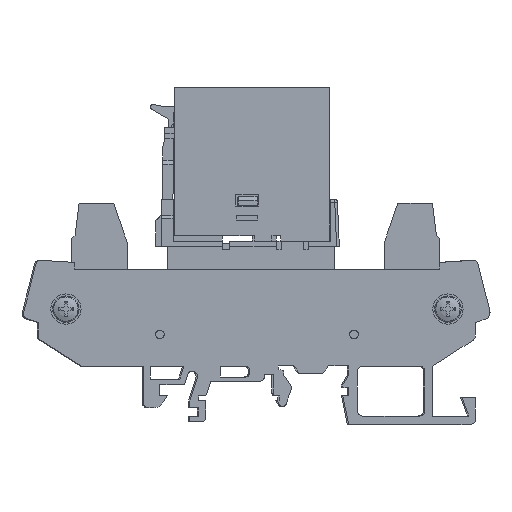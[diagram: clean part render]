
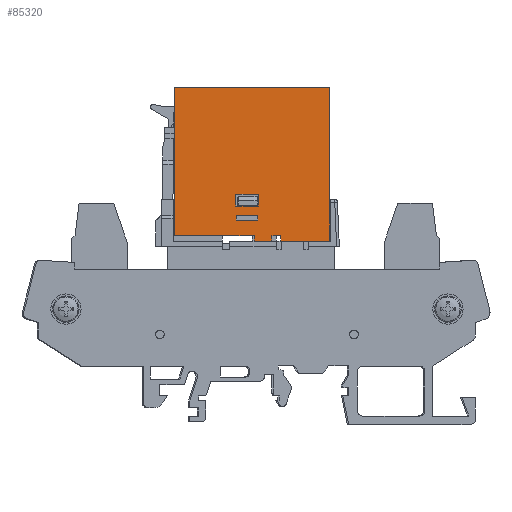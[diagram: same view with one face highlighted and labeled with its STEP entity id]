
A CAD part, left-side view. The second image highlights one B-rep face of the part: STEP entity #85320.
In plain terms, the highlighted planar face has unit normal (-1, 0, 0) as drawn and (0, 0, -1) by its records, which use the part's own axes.
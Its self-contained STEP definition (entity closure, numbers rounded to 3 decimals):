
#2577 = CARTESIAN_POINT ( 'NONE',  ( 14.4, 27.5, -6.3 ) ) ;
#3682 = FACE_BOUND ( 'NONE', #171167, .T. ) ;
#11203 = EDGE_CURVE ( 'NONE', #137652, #25320, #62909, .T. ) ;
#11980 = CARTESIAN_POINT ( 'NONE',  ( -0.4, -1., -6.3 ) ) ;
#14437 = VECTOR ( 'NONE', #90387, 1000. ) ;
#17898 = EDGE_CURVE ( 'NONE', #109890, #97773, #126670, .T. ) ;
#19173 = CARTESIAN_POINT ( 'NONE',  ( 2.9, 2.9, -6.3 ) ) ;
#20296 = CARTESIAN_POINT ( 'NONE',  ( -3.7, -1., -6.3 ) ) ;
#20702 = DIRECTION ( 'NONE',  ( -1., 0., 0. ) ) ;
#22839 = EDGE_CURVE ( 'NONE', #142116, #137652, #140117, .T. ) ;
#22969 = EDGE_CURVE ( 'NONE', #54823, #123301, #27725, .T. ) ;
#23632 = ORIENTED_EDGE ( 'NONE', *, *, #95710, .T. ) ;
#25320 = VERTEX_POINT ( 'NONE', #44252 ) ;
#26158 = VECTOR ( 'NONE', #149673, 1000. ) ;
#26996 = VERTEX_POINT ( 'NONE', #101079 ) ;
#27407 = VECTOR ( 'NONE', #95166, 1000. ) ;
#27725 = LINE ( 'NONE', #49722, #196208 ) ;
#34998 = EDGE_CURVE ( 'NONE', #123301, #123834, #116163, .T. ) ;
#39113 = LINE ( 'NONE', #20296, #77366 ) ;
#43953 = CARTESIAN_POINT ( 'NONE',  ( -1.2, 7.7, -6.3 ) ) ;
#44252 = CARTESIAN_POINT ( 'NONE',  ( 2.9, 2.9, -6.3 ) ) ;
#44603 = CARTESIAN_POINT ( 'NONE',  ( -14.4, 0., -6.3 ) ) ;
#44774 = VERTEX_POINT ( 'NONE', #155598 ) ;
#47036 = FACE_BOUND ( 'NONE', #66042, .T. ) ;
#47735 = CARTESIAN_POINT ( 'NONE',  ( -3.7, -1., -6.3 ) ) ;
#49722 = CARTESIAN_POINT ( 'NONE',  ( -1.2, 5.5, -6.3 ) ) ;
#50771 = CARTESIAN_POINT ( 'NONE',  ( 14.4, 0., -6.3 ) ) ;
#51110 = EDGE_CURVE ( 'NONE', #120569, #156284, #165689, .T. ) ;
#51690 = CARTESIAN_POINT ( 'NONE',  ( -14.4, 3.7, -6.3 ) ) ;
#52072 = CARTESIAN_POINT ( 'NONE',  ( 3., 5.5, -6.3 ) ) ;
#53491 = ORIENTED_EDGE ( 'NONE', *, *, #34998, .F. ) ;
#54202 = ORIENTED_EDGE ( 'NONE', *, *, #113454, .F. ) ;
#54823 = VERTEX_POINT ( 'NONE', #201024 ) ;
#56139 = DIRECTION ( 'NONE',  ( 1., 0., 0. ) ) ;
#56361 = VERTEX_POINT ( 'NONE', #179743 ) ;
#59325 = LINE ( 'NONE', #193084, #174164 ) ;
#60345 = ORIENTED_EDGE ( 'NONE', *, *, #51110, .F. ) ;
#60361 = AXIS2_PLACEMENT_3D ( 'NONE', #51690, #198687, #100922 ) ;
#62309 = ORIENTED_EDGE ( 'NONE', *, *, #191573, .F. ) ;
#62657 = DIRECTION ( 'NONE',  ( 1., 0., 0. ) ) ;
#62909 = LINE ( 'NONE', #106812, #14437 ) ;
#66042 = EDGE_LOOP ( 'NONE', ( #124989, #92859, #192580, #156473 ) ) ;
#66196 = DIRECTION ( 'NONE',  ( 0., 1., 0. ) ) ;
#68987 = CARTESIAN_POINT ( 'NONE',  ( -5.3, -1., -6.3 ) ) ;
#69128 = EDGE_CURVE ( 'NONE', #157003, #109890, #209866, .T. ) ;
#69490 = VECTOR ( 'NONE', #136313, 1000. ) ;
#72552 = CARTESIAN_POINT ( 'NONE',  ( 3., 7.7, -6.3 ) ) ;
#75823 = CARTESIAN_POINT ( 'NONE',  ( -0.4, 0., -6.3 ) ) ;
#77366 = VECTOR ( 'NONE', #150779, 1000. ) ;
#77524 = DIRECTION ( 'NONE',  ( 0., -1., 0. ) ) ;
#78837 = VECTOR ( 'NONE', #210049, 1000. ) ;
#79535 = CARTESIAN_POINT ( 'NONE',  ( -5.3, -1., -6.3 ) ) ;
#79710 = VECTOR ( 'NONE', #20702, 1000. ) ;
#81258 = LINE ( 'NONE', #11980, #124641 ) ;
#82742 = EDGE_CURVE ( 'NONE', #97773, #116612, #156285, .T. ) ;
#83032 = LINE ( 'NONE', #140666, #169919 ) ;
#83285 = VECTOR ( 'NONE', #77524, 1000. ) ;
#85320 = ADVANCED_FACE ( 'NONE', ( #95503, #47036, #3682 ), #182340, .T. ) ;
#85345 = DIRECTION ( 'NONE',  ( 0., 1., 0. ) ) ;
#85507 = CARTESIAN_POINT ( 'NONE',  ( 14.4, 27.5, -6.3 ) ) ;
#86463 = VECTOR ( 'NONE', #110233, 1000. ) ;
#90387 = DIRECTION ( 'NONE',  ( 0., -1., 0. ) ) ;
#91462 = ORIENTED_EDGE ( 'NONE', *, *, #144558, .F. ) ;
#92859 = ORIENTED_EDGE ( 'NONE', *, *, #11203, .F. ) ;
#93205 = CARTESIAN_POINT ( 'NONE',  ( -14.4, 0., -6.3 ) ) ;
#93858 = DIRECTION ( 'NONE',  ( 0., 1., 0. ) ) ;
#95166 = DIRECTION ( 'NONE',  ( 1., 0., 0. ) ) ;
#95503 = FACE_OUTER_BOUND ( 'NONE', #97891, .T. ) ;
#95710 = EDGE_CURVE ( 'NONE', #196174, #156284, #39113, .T. ) ;
#97773 = VERTEX_POINT ( 'NONE', #118547 ) ;
#97891 = EDGE_LOOP ( 'NONE', ( #156927, #117973, #54202, #91462, #102134, #168216, #23632, #60345, #101413, #146539 ) ) ;
#99906 = CARTESIAN_POINT ( 'NONE',  ( -0.4, -1., -6.3 ) ) ;
#100735 = CARTESIAN_POINT ( 'NONE',  ( 2.9, 3.7, -6.3 ) ) ;
#100922 = DIRECTION ( 'NONE',  ( 0., -1., 0. ) ) ;
#101079 = CARTESIAN_POINT ( 'NONE',  ( 14.4, 0., -6.3 ) ) ;
#101413 = ORIENTED_EDGE ( 'NONE', *, *, #167093, .F. ) ;
#102134 = ORIENTED_EDGE ( 'NONE', *, *, #111149, .F. ) ;
#103707 = CARTESIAN_POINT ( 'NONE',  ( -5.3, 0., -6.3 ) ) ;
#106812 = CARTESIAN_POINT ( 'NONE',  ( 2.9, 3.7, -6.3 ) ) ;
#109890 = VERTEX_POINT ( 'NONE', #137332 ) ;
#110233 = DIRECTION ( 'NONE',  ( 1., 0., 0. ) ) ;
#111149 = EDGE_CURVE ( 'NONE', #126233, #174840, #81258, .T. ) ;
#112940 = LINE ( 'NONE', #19173, #26158 ) ;
#113454 = EDGE_CURVE ( 'NONE', #26996, #157003, #120944, .T. ) ;
#114178 = LINE ( 'NONE', #47735, #27407 ) ;
#116163 = LINE ( 'NONE', #72552, #154506 ) ;
#116612 = VERTEX_POINT ( 'NONE', #79535 ) ;
#117973 = ORIENTED_EDGE ( 'NONE', *, *, #69128, .F. ) ;
#118547 = CARTESIAN_POINT ( 'NONE',  ( -14.4, -1., -6.3 ) ) ;
#120400 = EDGE_CURVE ( 'NONE', #196174, #126233, #114178, .T. ) ;
#120569 = VERTEX_POINT ( 'NONE', #103707 ) ;
#120944 = LINE ( 'NONE', #50771, #202689 ) ;
#123127 = CARTESIAN_POINT ( 'NONE',  ( -3.7, -1., -6.3 ) ) ;
#123301 = VERTEX_POINT ( 'NONE', #43953 ) ;
#123834 = VERTEX_POINT ( 'NONE', #173591 ) ;
#124641 = VECTOR ( 'NONE', #126071, 1000. ) ;
#124778 = LINE ( 'NONE', #52072, #206462 ) ;
#124989 = ORIENTED_EDGE ( 'NONE', *, *, #139282, .F. ) ;
#126071 = DIRECTION ( 'NONE',  ( 0., 1., 0. ) ) ;
#126233 = VERTEX_POINT ( 'NONE', #99906 ) ;
#126276 = EDGE_CURVE ( 'NONE', #44774, #54823, #124778, .T. ) ;
#126670 = LINE ( 'NONE', #93205, #83285 ) ;
#136313 = DIRECTION ( 'NONE',  ( 1., 0., 0. ) ) ;
#136717 = ORIENTED_EDGE ( 'NONE', *, *, #126276, .F. ) ;
#137332 = CARTESIAN_POINT ( 'NONE',  ( -14.4, 27.5, -6.3 ) ) ;
#137652 = VERTEX_POINT ( 'NONE', #100735 ) ;
#139282 = EDGE_CURVE ( 'NONE', #25320, #56361, #112940, .T. ) ;
#140117 = LINE ( 'NONE', #160398, #188656 ) ;
#140139 = LINE ( 'NONE', #44603, #86463 ) ;
#140666 = CARTESIAN_POINT ( 'NONE',  ( 3., 7.7, -6.3 ) ) ;
#142116 = VERTEX_POINT ( 'NONE', #159565 ) ;
#144558 = EDGE_CURVE ( 'NONE', #174840, #26996, #140139, .T. ) ;
#146539 = ORIENTED_EDGE ( 'NONE', *, *, #82742, .F. ) ;
#149673 = DIRECTION ( 'NONE',  ( -1., 0., 0. ) ) ;
#149901 = DIRECTION ( 'NONE',  ( -1., 0., 0. ) ) ;
#150779 = DIRECTION ( 'NONE',  ( 0., 1., 0. ) ) ;
#152755 = CARTESIAN_POINT ( 'NONE',  ( -14.4, -1., -6.3 ) ) ;
#154506 = VECTOR ( 'NONE', #56139, 1000. ) ;
#155598 = CARTESIAN_POINT ( 'NONE',  ( 3., 5.5, -6.3 ) ) ;
#155615 = VECTOR ( 'NONE', #85345, 1000. ) ;
#156284 = VERTEX_POINT ( 'NONE', #205991 ) ;
#156285 = LINE ( 'NONE', #152755, #69490 ) ;
#156473 = ORIENTED_EDGE ( 'NONE', *, *, #202444, .F. ) ;
#156927 = ORIENTED_EDGE ( 'NONE', *, *, #17898, .F. ) ;
#157003 = VERTEX_POINT ( 'NONE', #2577 ) ;
#159565 = CARTESIAN_POINT ( 'NONE',  ( -1.1, 3.7, -6.3 ) ) ;
#160398 = CARTESIAN_POINT ( 'NONE',  ( -14.4, 3.7, -6.3 ) ) ;
#162891 = ORIENTED_EDGE ( 'NONE', *, *, #22969, .F. ) ;
#165689 = LINE ( 'NONE', #194434, #78837 ) ;
#167093 = EDGE_CURVE ( 'NONE', #116612, #120569, #170991, .T. ) ;
#168216 = ORIENTED_EDGE ( 'NONE', *, *, #120400, .F. ) ;
#169919 = VECTOR ( 'NONE', #205535, 1000. ) ;
#170991 = LINE ( 'NONE', #68987, #155615 ) ;
#171167 = EDGE_LOOP ( 'NONE', ( #136717, #62309, #53491, #162891 ) ) ;
#173591 = CARTESIAN_POINT ( 'NONE',  ( 3., 7.7, -6.3 ) ) ;
#174164 = VECTOR ( 'NONE', #93858, 1000. ) ;
#174840 = VERTEX_POINT ( 'NONE', #75823 ) ;
#179743 = CARTESIAN_POINT ( 'NONE',  ( -1.1, 2.9, -6.3 ) ) ;
#182340 = PLANE ( 'NONE',  #60361 ) ;
#188656 = VECTOR ( 'NONE', #62657, 1000. ) ;
#191573 = EDGE_CURVE ( 'NONE', #123834, #44774, #83032, .T. ) ;
#192580 = ORIENTED_EDGE ( 'NONE', *, *, #22839, .F. ) ;
#193084 = CARTESIAN_POINT ( 'NONE',  ( -1.1, 3.7, -6.3 ) ) ;
#194434 = CARTESIAN_POINT ( 'NONE',  ( -14.4, 0., -6.3 ) ) ;
#196174 = VERTEX_POINT ( 'NONE', #123127 ) ;
#196208 = VECTOR ( 'NONE', #66196, 1000. ) ;
#197756 = DIRECTION ( 'NONE',  ( 0., 1., 0. ) ) ;
#198687 = DIRECTION ( 'NONE',  ( 0., 0., -1. ) ) ;
#201024 = CARTESIAN_POINT ( 'NONE',  ( -1.2, 5.5, -6.3 ) ) ;
#202444 = EDGE_CURVE ( 'NONE', #56361, #142116, #59325, .T. ) ;
#202689 = VECTOR ( 'NONE', #197756, 1000. ) ;
#205535 = DIRECTION ( 'NONE',  ( 0., -1., 0. ) ) ;
#205991 = CARTESIAN_POINT ( 'NONE',  ( -3.7, 0., -6.3 ) ) ;
#206462 = VECTOR ( 'NONE', #149901, 1000. ) ;
#209866 = LINE ( 'NONE', #85507, #79710 ) ;
#210049 = DIRECTION ( 'NONE',  ( 1., 0., 0. ) ) ;
